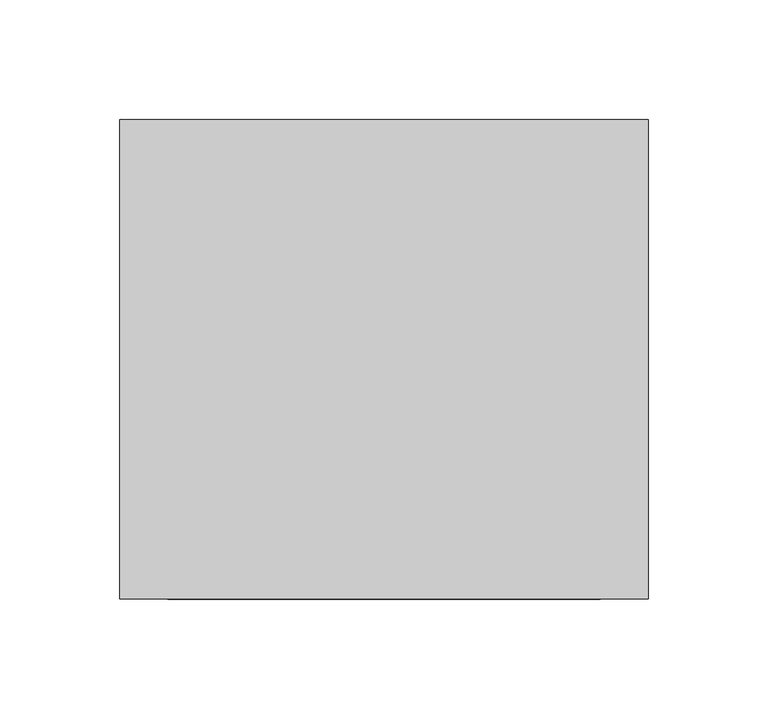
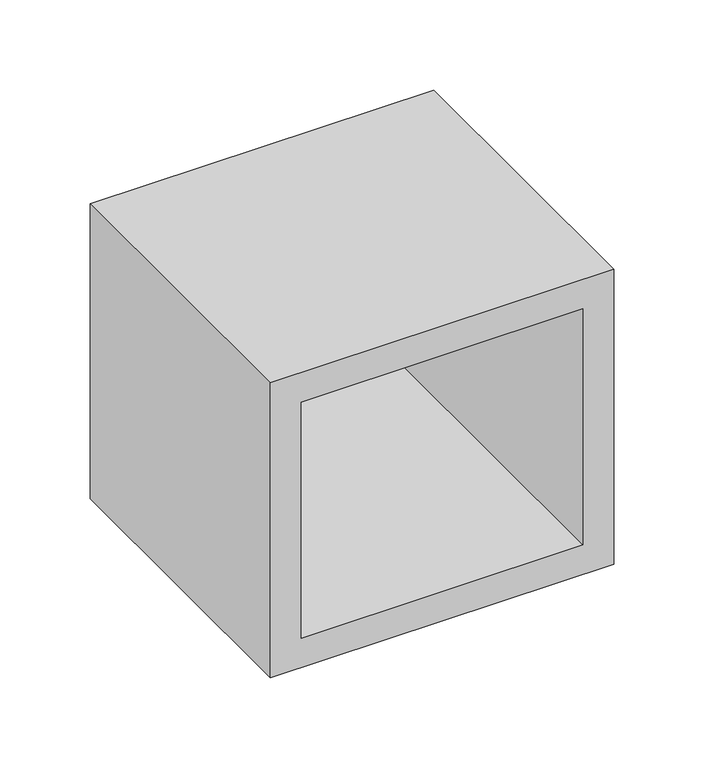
"""IFC4 building model written with IfcOpenShell, lengths in millimetres: plate geometry, pnl - ELEMENTO VAZADO QUADRICULADO : e = 20."""

from ifc_helpers import new_model, si_unit, frame, origin, place, context, project, spatial, polyline, outline, extrude, source, transform, mapped, element, save


def plate_db6f8793(model_context):
    return source(origin(), model_context, "Body", "SweptSolid", [
        extrude(outline(polyline([(200.0, -110.153451), (0.0, -110.153451), (0.0, 110.153451), (200.0, 110.153451), (200.0, -110.153451)]), holes=[polyline([(180.0, -90.153451), (180.0, 90.153451), (20.0, 90.153451), (20.0, -90.153451), (180.0, -90.153451)])]), frame((0.0, -100.0, 0.0), z_axis=(0.0, 1.0, 0.0), x_axis=(0.0, 0.0, 1.0)), (0.0, 0.0, 1.0), 200.0),
    ])


if __name__ == "__main__":
    model = new_model("IFC4")
    model_context = context("Model", 3, world=origin())
    ifc_project = project(units=[si_unit("LENGTHUNIT", "METRE", prefix="MILLI")], contexts=[model_context])
    site = spatial("IfcSite", under=ifc_project)
    building = spatial("IfcBuilding", under=site)
    placement = place(None, origin())
    plate_shape = plate_db6f8793(model_context)
    element("IfcPlate", 1, ObjectType="pnl - ELEMENTO VAZADO QUADRICULADO : e = 20", at=placement, inside=building, context=model_context, shape_type="MappedRepresentation", body=[
        mapped(plate_shape, transform((0.0, 0.0, 0.0), x_axis=(1.0, 0.0, 0.0), y_axis=(0.0, 1.0, 0.0), z_axis=(0.0, 0.0, 1.0))),
    ])
    save(model, "model.ifc")
